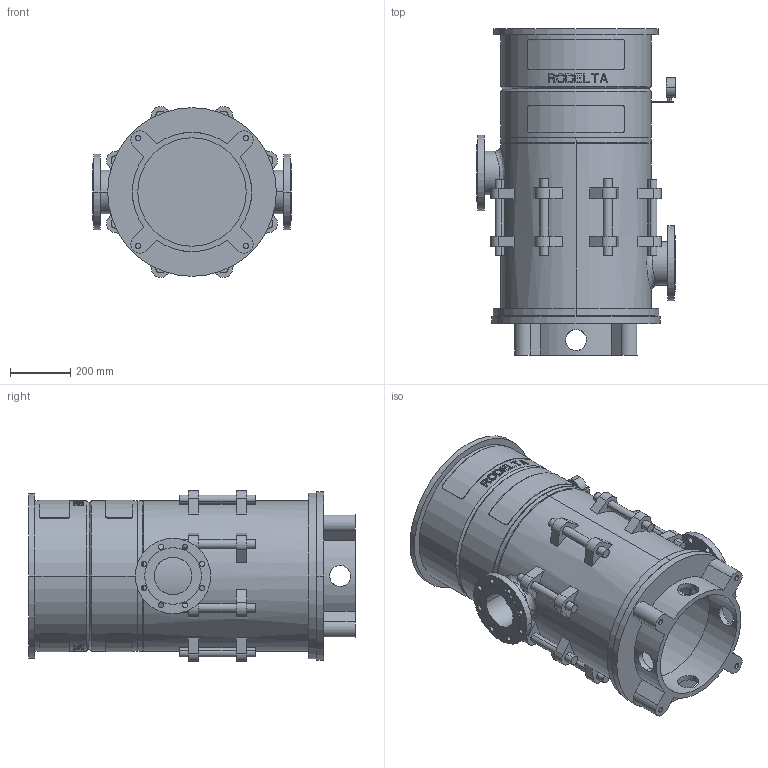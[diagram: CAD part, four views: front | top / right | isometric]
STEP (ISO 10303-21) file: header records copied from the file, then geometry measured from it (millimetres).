
FILE_DESCRIPTION((''),'2;1');
FILE_NAME('LS5_2TR_0GR_ABOVE_30KW','2023-08-08T',('Lyritlocal'),(''),'PRO/ENGINEER BY PARAMETRIC TECHNOLOGY CORPORATION, 2016360','PRO/ENGINEER BY PARAMETRIC TECHNOLOGY CORPORATION, 2016360','');
FILE_SCHEMA(('CONFIG_CONTROL_DESIGN'));
Length unit declared in the file: millimetre
Products named in the file (1): LS5_2TR_0GR_ABOVE_30KW
Bounding box: 660 x 1084 x 568.08 mm (x, y, z)
Volume: 36327158.1 mm3; surface area: 5025286.3 mm2
Topology: 3 solids, 7 shells, 672 faces, 1747 edges, 1158 vertices
Faces by surface type: plane 414, cylinder 242, cone 12, bspline 4
Entity records: 22016 total; most frequent: CARTESIAN_POINT 5572, ORIENTED_EDGE 3478, DIRECTION 3269, EDGE_CURVE 1747, AXIS2_PLACEMENT_3D 1241, VERTEX_POINT 1158, EDGE_LOOP 809, VECTOR 787
